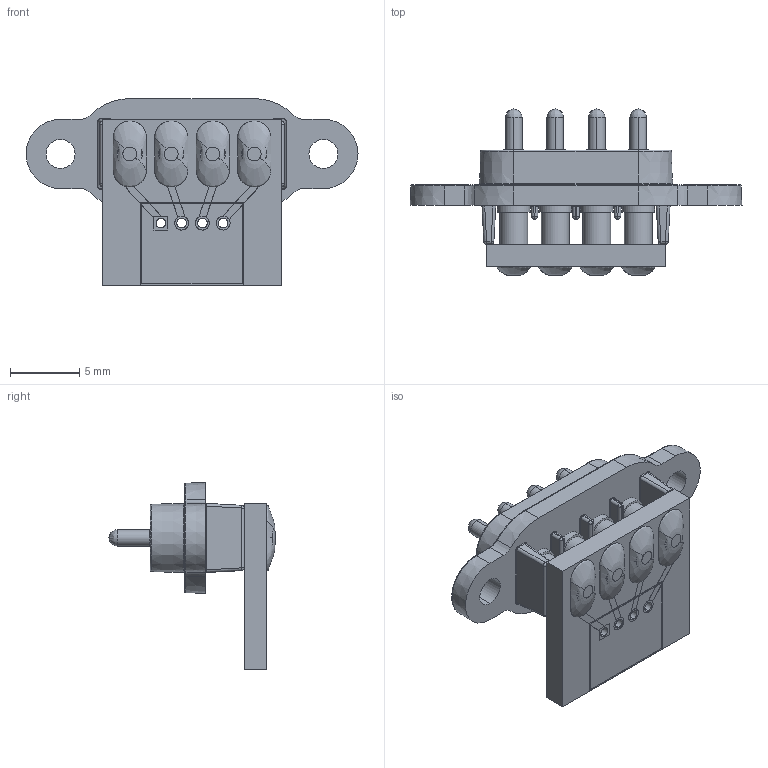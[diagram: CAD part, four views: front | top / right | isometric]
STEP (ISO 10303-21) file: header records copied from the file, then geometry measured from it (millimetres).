
FILE_DESCRIPTION (( 'STEP AP214' ), '1' );
FILE_NAME ('SWIFT DOCK MINI-4P-SC.STEP', '2021-07-28T13:23:39', ( '' ), ( '' ), 'SwSTEP 2.0', 'SolidWorks 2021', '' );
FILE_SCHEMA (( 'AUTOMOTIVE_DESIGN' ));
Length unit declared in the file: millimetre
Products named in the file (6): PCB_4 way_mini_3; SWIFT DOCK MINI-4P-SC; contact_sd_mini_7; solder_large_SD mini_11; body_4 hole_mini_1; PCB_4 way_mini_assy_pcb_1
Assembly tree (11 placements, depth 3):
  SWIFT DOCK MINI-4P-SC
    body_4 hole_mini_1
    contact_sd_mini_7  x4
    PCB_4 way_mini_assy_pcb_1
      PCB_4 way_mini_3
    solder_large_SD mini_11  x4
Bounding box: 24 x 12 x 13.5 mm (x, y, z)
Volume: 691.1 mm3; surface area: 1522.8 mm2
Topology: 10 solids, 14 shells, 499 faces, 1098 edges, 650 vertices
Faces by surface type: cylinder 206, plane 167, bspline 74, cone 52
Entity records: 17145 total; most frequent: CARTESIAN_POINT 4687, ORIENTED_EDGE 1724, DIRECTION 1573, EDGE_CURVE 862, AXIS2_PLACEMENT_3D 588, VERTEX_POINT 506, EDGE_LOOP 428, VECTOR 397
